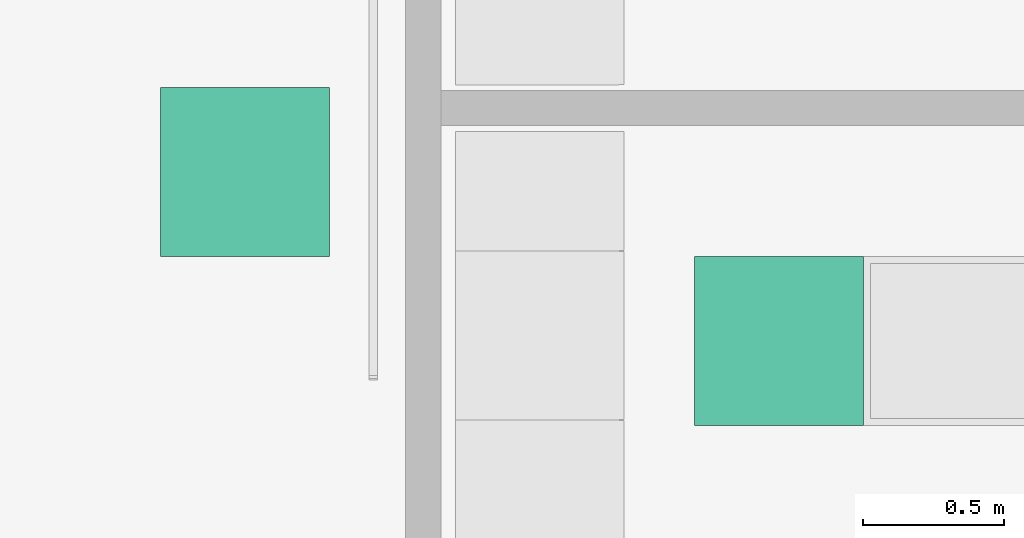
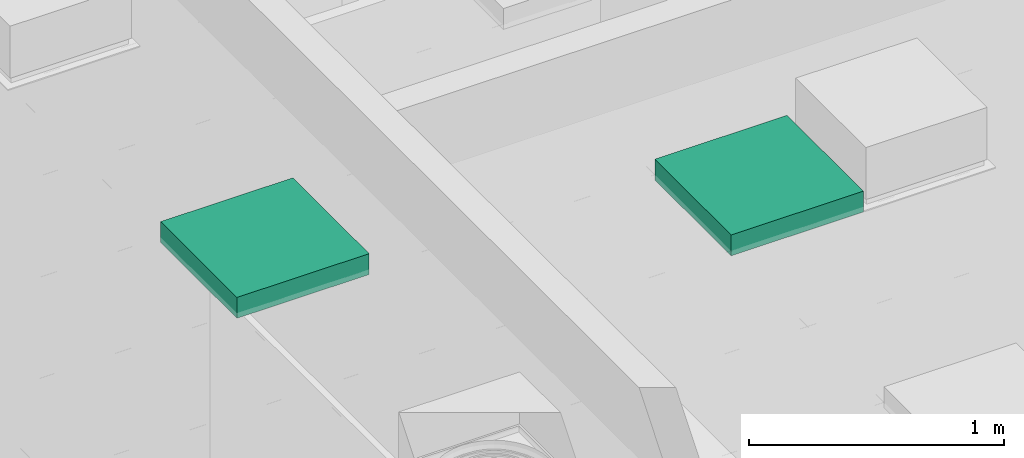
# One storey, part 189 of 347: 2 flow terminals.
"""IFC2X3 building model written with IfcOpenShell, lengths in millimetres."""

from ifc_helpers import new_model, entity, si_unit, converted_unit, derived_unit, money_unit, direction, frame, origin_with_axes, place, context, subcontext, project, spatial, open_shell, faceted_brep, surface_model, source, transform, mapped, type_object, type_shapes, element, save


model = new_model("IFC2X3")

# Units and contexts
model_context = context("Model", 3, precision=0.01, world=origin_with_axes(), true_north=direction((0.0, 1.0)))
plan_context = context("Plan", 3, precision=0.01, world=origin_with_axes(), true_north=direction((0.0, 1.0)))
body_context = subcontext(model_context, "Body", "Model", "MODEL_VIEW")
ifc_project = project(units=[si_unit("LENGTHUNIT", "METRE", prefix="MILLI"), si_unit("AREAUNIT", "SQUARE_METRE"), si_unit("VOLUMEUNIT", "CUBIC_METRE"), converted_unit("PLANEANGLEUNIT", "DEGREE", entity("IfcPlaneAngleMeasure", 0.0174532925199), si_unit("PLANEANGLEUNIT", "RADIAN"), dimensions=[0, 0, 0, 0, 0, 0, 0]), money_unit("EUR"), converted_unit("TIMEUNIT", "Year", entity("IfcTimeMeasure", 31556926.0), si_unit("TIMEUNIT", "SECOND"), dimensions=[0, 0, 1, 0, 0, 0, 0]), si_unit("MASSUNIT", "GRAM", prefix="KILO"), si_unit("THERMODYNAMICTEMPERATUREUNIT", "DEGREE_CELSIUS"), si_unit("LUMINOUSINTENSITYUNIT", "LUMEN"), si_unit("ENERGYUNIT", "JOULE", prefix="MEGA"), derived_unit("THERMALCONDUCTANCEUNIT", [(si_unit("POWERUNIT", "WATT"), 1), (si_unit("LENGTHUNIT", "METRE"), -1), (si_unit("THERMODYNAMICTEMPERATUREUNIT", "KELVIN"), -1)]), derived_unit("SPECIFICHEATCAPACITYUNIT", [(si_unit("ENERGYUNIT", "JOULE"), 1), (si_unit("MASSUNIT", "GRAM", prefix="KILO"), -1), (si_unit("THERMODYNAMICTEMPERATUREUNIT", "KELVIN"), -1)]), derived_unit("MASSDENSITYUNIT", [(si_unit("MASSUNIT", "GRAM", prefix="KILO"), 1), (si_unit("VOLUMEUNIT", "CUBIC_METRE"), -1)])], contexts=[model_context, plan_context])

# Site, building, storey
site_placement = place(None, origin_with_axes())
site = spatial("IfcSite", under=ifc_project, at=site_placement, Name="Site", CompositionType="ELEMENT")
building_placement = place(site_placement, origin_with_axes())
building = spatial("IfcBuilding", under=site, at=building_placement, Name="Naam gebouw", CompositionType="ELEMENT")
storey_placement = place(building_placement, origin_with_axes())
storey = spatial("IfcBuildingStorey", under=building, at=storey_placement, Name="begane grond", CompositionType="ELEMENT", Elevation=0.0)

# Flow terminals
lamp_type = type_object("IfcLampType", Name="TL plafond 25", PredefinedType="NOTDEFINED")
shared_shape = source(origin_with_axes(), body_context, "Body", "SurfaceModel", [
    faceted_brep([(0.0, 0.0, -100.0), (600.0, 0.0, -100.0), (600.0, 0.0, 0.0), (0.0, 0.0, 0.0), (0.0, 600.0, -100.0), (600.0, 600.0, -100.0), (40.0, 40.0, -100.0), (560.0, 40.0, -100.0), (560.0, 560.0, -100.0), (40.0, 560.0, -100.0), (600.0, 600.0, 0.0), (0.0, 600.0, 0.0), (40.0, 40.0, 0.0), (40.0, 560.0, 0.0), (560.0, 560.0, 0.0), (560.0, 40.0, 0.0)], [[[0, 1, 2, 3]], [[0, 4, 5, 1], [6, 7, 8, 9]], [[1, 5, 10, 2]], [[3, 2, 10, 11], [12, 13, 14, 15]], [[4, 0, 3, 11]], [[5, 4, 11, 10]], [[7, 6, 12, 15]], [[8, 7, 15, 14]], [[9, 8, 14, 13]], [[6, 9, 13, 12]]]),
    faceted_brep([(40.0, 40.0, -16.3333333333), (560.0, 40.0, -16.3333333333), (560.0, 40.0, 0.0), (40.0, 40.0, 0.0), (40.0, 560.0, -16.3333333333), (560.0, 560.0, -16.3333333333), (560.0, 560.0, 0.0), (40.0, 560.0, 0.0)], [[[0, 1, 2, 3]], [[0, 4, 5, 1]], [[1, 5, 6, 2]], [[3, 2, 6, 7]], [[4, 0, 3, 7]], [[5, 4, 7, 6]]]),
    surface_model("IfcShellBasedSurfaceModel", [(559.0, 41.0, -100.0), (40.0, 41.0, -100.0), (40.0, 559.0, -100.0), (559.0, 559.0, -100.0)], [open_shell([[[0, 1, 2, 3]]])]),
    faceted_brep([(40.0, 40.0, -100.0), (560.0, 40.0, -100.0), (560.0, 40.0, -60.0), (40.0, 40.0, -60.0), (40.0, 560.0, -100.0), (560.0, 560.0, -100.0), (41.0, 41.0, -100.0), (559.0, 41.0, -100.0), (559.0, 559.0, -100.0), (41.0, 559.0, -100.0), (560.0, 560.0, -60.0), (40.0, 560.0, -60.0), (41.0, 41.0, -60.0), (41.0, 559.0, -60.0), (559.0, 559.0, -60.0), (559.0, 41.0, -60.0)], [[[0, 1, 2, 3]], [[0, 4, 5, 1], [6, 7, 8, 9]], [[1, 5, 10, 2]], [[3, 2, 10, 11], [12, 13, 14, 15]], [[4, 0, 3, 11]], [[5, 4, 11, 10]], [[7, 6, 12, 15]], [[8, 7, 15, 14]], [[9, 8, 14, 13]], [[6, 9, 13, 12]]]),
    faceted_brep([(40.0, 144.0, -48.3333333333), (40.0, 149.740251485, -47.191526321), (560.0, 149.740251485, -47.191526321), (560.0, 144.0, -48.3333333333), (40.0, 138.259748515, -47.191526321), (40.0, 133.393398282, -43.9399350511), (40.0, 130.141807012, -39.0735848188), (40.0, 129.0, -33.3333333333), (40.0, 130.141807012, -27.5930818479), (40.0, 133.393398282, -22.7267316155), (40.0, 138.259748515, -19.4751403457), (40.0, 144.0, -18.3333333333), (40.0, 149.740251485, -19.4751403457), (40.0, 154.606601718, -22.7267316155), (40.0, 157.858192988, -27.5930818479), (40.0, 159.0, -33.3333333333), (40.0, 157.858192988, -39.0735848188), (40.0, 154.606601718, -43.9399350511), (40.0, 144.0, -46.3333333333), (40.0, 148.974884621, -45.343767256), (40.0, 153.192388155, -42.5257214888), (40.0, 156.010433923, -38.3082179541), (40.0, 157.0, -33.3333333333), (40.0, 156.010433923, -28.3584487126), (40.0, 153.192388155, -24.1409451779), (40.0, 148.974884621, -21.3228994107), (40.0, 144.0, -20.3333333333), (40.0, 139.025115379, -21.3228994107), (40.0, 134.807611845, -24.1409451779), (40.0, 131.989566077, -28.3584487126), (40.0, 131.0, -33.3333333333), (40.0, 131.989566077, -38.3082179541), (40.0, 134.807611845, -42.5257214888), (40.0, 139.025115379, -45.343767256), (560.0, 154.606601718, -43.9399350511), (560.0, 157.858192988, -39.0735848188), (560.0, 159.0, -33.3333333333), (560.0, 157.858192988, -27.5930818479), (560.0, 154.606601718, -22.7267316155), (560.0, 149.740251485, -19.4751403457), (560.0, 144.0, -18.3333333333), (560.0, 138.259748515, -19.4751403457), (560.0, 133.393398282, -22.7267316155), (560.0, 130.141807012, -27.5930818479), (560.0, 129.0, -33.3333333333), (560.0, 130.141807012, -39.0735848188), (560.0, 133.393398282, -43.9399350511), (560.0, 138.259748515, -47.191526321), (560.0, 144.0, -46.3333333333), (560.0, 139.025115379, -45.343767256), (560.0, 134.807611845, -42.5257214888), (560.0, 131.989566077, -38.3082179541), (560.0, 131.0, -33.3333333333), (560.0, 131.989566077, -28.3584487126), (560.0, 134.807611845, -24.1409451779), (560.0, 139.025115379, -21.3228994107), (560.0, 144.0, -20.3333333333), (560.0, 148.974884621, -21.3228994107), (560.0, 153.192388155, -24.1409451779), (560.0, 156.010433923, -28.3584487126), (560.0, 157.0, -33.3333333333), (560.0, 156.010433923, -38.3082179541), (560.0, 153.192388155, -42.5257214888), (560.0, 148.974884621, -45.343767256)], [[[0, 1, 2, 3]], [[0, 4, 5, 6, 7, 8, 9, 10, 11, 12, 13, 14, 15, 16, 17, 1], [18, 19, 20, 21, 22, 23, 24, 25, 26, 27, 28, 29, 30, 31, 32, 33]], [[1, 17, 34, 2]], [[3, 2, 34, 35, 36, 37, 38, 39, 40, 41, 42, 43, 44, 45, 46, 47], [48, 49, 50, 51, 52, 53, 54, 55, 56, 57, 58, 59, 60, 61, 62, 63]], [[4, 0, 3, 47]], [[5, 4, 47, 46]], [[6, 5, 46, 45]], [[7, 6, 45, 44]], [[8, 7, 44, 43]], [[9, 8, 43, 42]], [[10, 9, 42, 41]], [[11, 10, 41, 40]], [[12, 11, 40, 39]], [[13, 12, 39, 38]], [[14, 13, 38, 37]], [[15, 14, 37, 36]], [[16, 15, 36, 35]], [[17, 16, 35, 34]], [[19, 18, 48, 63]], [[20, 19, 63, 62]], [[21, 20, 62, 61]], [[22, 21, 61, 60]], [[23, 22, 60, 59]], [[24, 23, 59, 58]], [[25, 24, 58, 57]], [[26, 25, 57, 56]], [[27, 26, 56, 55]], [[28, 27, 55, 54]], [[29, 28, 54, 53]], [[30, 29, 53, 52]], [[31, 30, 52, 51]], [[32, 31, 51, 50]], [[33, 32, 50, 49]], [[18, 33, 49, 48]]]),
    faceted_brep([(40.0, 248.0, -48.3333333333), (40.0, 253.740251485, -47.191526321), (560.0, 253.740251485, -47.191526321), (560.0, 248.0, -48.3333333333), (40.0, 242.259748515, -47.191526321), (40.0, 237.393398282, -43.9399350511), (40.0, 234.141807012, -39.0735848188), (40.0, 233.0, -33.3333333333), (40.0, 234.141807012, -27.5930818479), (40.0, 237.393398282, -22.7267316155), (40.0, 242.259748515, -19.4751403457), (40.0, 248.0, -18.3333333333), (40.0, 253.740251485, -19.4751403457), (40.0, 258.606601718, -22.7267316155), (40.0, 261.858192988, -27.5930818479), (40.0, 263.0, -33.3333333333), (40.0, 261.858192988, -39.0735848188), (40.0, 258.606601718, -43.9399350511), (40.0, 248.0, -46.3333333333), (40.0, 252.974884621, -45.343767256), (40.0, 257.192388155, -42.5257214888), (40.0, 260.010433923, -38.3082179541), (40.0, 261.0, -33.3333333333), (40.0, 260.010433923, -28.3584487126), (40.0, 257.192388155, -24.1409451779), (40.0, 252.974884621, -21.3228994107), (40.0, 248.0, -20.3333333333), (40.0, 243.025115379, -21.3228994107), (40.0, 238.807611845, -24.1409451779), (40.0, 235.989566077, -28.3584487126), (40.0, 235.0, -33.3333333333), (40.0, 235.989566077, -38.3082179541), (40.0, 238.807611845, -42.5257214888), (40.0, 243.025115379, -45.343767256), (560.0, 258.606601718, -43.9399350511), (560.0, 261.858192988, -39.0735848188), (560.0, 263.0, -33.3333333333), (560.0, 261.858192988, -27.5930818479), (560.0, 258.606601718, -22.7267316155), (560.0, 253.740251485, -19.4751403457), (560.0, 248.0, -18.3333333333), (560.0, 242.259748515, -19.4751403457), (560.0, 237.393398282, -22.7267316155), (560.0, 234.141807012, -27.5930818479), (560.0, 233.0, -33.3333333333), (560.0, 234.141807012, -39.0735848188), (560.0, 237.393398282, -43.9399350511), (560.0, 242.259748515, -47.191526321), (560.0, 248.0, -46.3333333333), (560.0, 243.025115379, -45.343767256), (560.0, 238.807611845, -42.5257214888), (560.0, 235.989566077, -38.3082179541), (560.0, 235.0, -33.3333333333), (560.0, 235.989566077, -28.3584487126), (560.0, 238.807611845, -24.1409451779), (560.0, 243.025115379, -21.3228994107), (560.0, 248.0, -20.3333333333), (560.0, 252.974884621, -21.3228994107), (560.0, 257.192388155, -24.1409451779), (560.0, 260.010433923, -28.3584487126), (560.0, 261.0, -33.3333333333), (560.0, 260.010433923, -38.3082179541), (560.0, 257.192388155, -42.5257214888), (560.0, 252.974884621, -45.343767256)], [[[0, 1, 2, 3]], [[0, 4, 5, 6, 7, 8, 9, 10, 11, 12, 13, 14, 15, 16, 17, 1], [18, 19, 20, 21, 22, 23, 24, 25, 26, 27, 28, 29, 30, 31, 32, 33]], [[1, 17, 34, 2]], [[3, 2, 34, 35, 36, 37, 38, 39, 40, 41, 42, 43, 44, 45, 46, 47], [48, 49, 50, 51, 52, 53, 54, 55, 56, 57, 58, 59, 60, 61, 62, 63]], [[4, 0, 3, 47]], [[5, 4, 47, 46]], [[6, 5, 46, 45]], [[7, 6, 45, 44]], [[8, 7, 44, 43]], [[9, 8, 43, 42]], [[10, 9, 42, 41]], [[11, 10, 41, 40]], [[12, 11, 40, 39]], [[13, 12, 39, 38]], [[14, 13, 38, 37]], [[15, 14, 37, 36]], [[16, 15, 36, 35]], [[17, 16, 35, 34]], [[19, 18, 48, 63]], [[20, 19, 63, 62]], [[21, 20, 62, 61]], [[22, 21, 61, 60]], [[23, 22, 60, 59]], [[24, 23, 59, 58]], [[25, 24, 58, 57]], [[26, 25, 57, 56]], [[27, 26, 56, 55]], [[28, 27, 55, 54]], [[29, 28, 54, 53]], [[30, 29, 53, 52]], [[31, 30, 52, 51]], [[32, 31, 51, 50]], [[33, 32, 50, 49]], [[18, 33, 49, 48]]]),
    faceted_brep([(40.0, 352.0, -48.3333333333), (40.0, 357.740251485, -47.191526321), (560.0, 357.740251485, -47.191526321), (560.0, 352.0, -48.3333333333), (40.0, 346.259748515, -47.191526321), (40.0, 341.393398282, -43.9399350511), (40.0, 338.141807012, -39.0735848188), (40.0, 337.0, -33.3333333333), (40.0, 338.141807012, -27.5930818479), (40.0, 341.393398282, -22.7267316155), (40.0, 346.259748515, -19.4751403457), (40.0, 352.0, -18.3333333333), (40.0, 357.740251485, -19.4751403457), (40.0, 362.606601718, -22.7267316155), (40.0, 365.858192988, -27.5930818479), (40.0, 367.0, -33.3333333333), (40.0, 365.858192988, -39.0735848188), (40.0, 362.606601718, -43.9399350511), (40.0, 352.0, -46.3333333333), (40.0, 356.974884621, -45.343767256), (40.0, 361.192388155, -42.5257214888), (40.0, 364.010433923, -38.3082179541), (40.0, 365.0, -33.3333333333), (40.0, 364.010433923, -28.3584487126), (40.0, 361.192388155, -24.1409451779), (40.0, 356.974884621, -21.3228994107), (40.0, 352.0, -20.3333333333), (40.0, 347.025115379, -21.3228994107), (40.0, 342.807611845, -24.1409451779), (40.0, 339.989566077, -28.3584487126), (40.0, 339.0, -33.3333333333), (40.0, 339.989566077, -38.3082179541), (40.0, 342.807611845, -42.5257214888), (40.0, 347.025115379, -45.343767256), (560.0, 362.606601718, -43.9399350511), (560.0, 365.858192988, -39.0735848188), (560.0, 367.0, -33.3333333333), (560.0, 365.858192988, -27.5930818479), (560.0, 362.606601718, -22.7267316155), (560.0, 357.740251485, -19.4751403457), (560.0, 352.0, -18.3333333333), (560.0, 346.259748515, -19.4751403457), (560.0, 341.393398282, -22.7267316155), (560.0, 338.141807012, -27.5930818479), (560.0, 337.0, -33.3333333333), (560.0, 338.141807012, -39.0735848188), (560.0, 341.393398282, -43.9399350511), (560.0, 346.259748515, -47.191526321), (560.0, 352.0, -46.3333333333), (560.0, 347.025115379, -45.343767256), (560.0, 342.807611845, -42.5257214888), (560.0, 339.989566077, -38.3082179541), (560.0, 339.0, -33.3333333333), (560.0, 339.989566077, -28.3584487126), (560.0, 342.807611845, -24.1409451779), (560.0, 347.025115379, -21.3228994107), (560.0, 352.0, -20.3333333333), (560.0, 356.974884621, -21.3228994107), (560.0, 361.192388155, -24.1409451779), (560.0, 364.010433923, -28.3584487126), (560.0, 365.0, -33.3333333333), (560.0, 364.010433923, -38.3082179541), (560.0, 361.192388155, -42.5257214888), (560.0, 356.974884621, -45.343767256)], [[[0, 1, 2, 3]], [[0, 4, 5, 6, 7, 8, 9, 10, 11, 12, 13, 14, 15, 16, 17, 1], [18, 19, 20, 21, 22, 23, 24, 25, 26, 27, 28, 29, 30, 31, 32, 33]], [[1, 17, 34, 2]], [[3, 2, 34, 35, 36, 37, 38, 39, 40, 41, 42, 43, 44, 45, 46, 47], [48, 49, 50, 51, 52, 53, 54, 55, 56, 57, 58, 59, 60, 61, 62, 63]], [[4, 0, 3, 47]], [[5, 4, 47, 46]], [[6, 5, 46, 45]], [[7, 6, 45, 44]], [[8, 7, 44, 43]], [[9, 8, 43, 42]], [[10, 9, 42, 41]], [[11, 10, 41, 40]], [[12, 11, 40, 39]], [[13, 12, 39, 38]], [[14, 13, 38, 37]], [[15, 14, 37, 36]], [[16, 15, 36, 35]], [[17, 16, 35, 34]], [[19, 18, 48, 63]], [[20, 19, 63, 62]], [[21, 20, 62, 61]], [[22, 21, 61, 60]], [[23, 22, 60, 59]], [[24, 23, 59, 58]], [[25, 24, 58, 57]], [[26, 25, 57, 56]], [[27, 26, 56, 55]], [[28, 27, 55, 54]], [[29, 28, 54, 53]], [[30, 29, 53, 52]], [[31, 30, 52, 51]], [[32, 31, 51, 50]], [[33, 32, 50, 49]], [[18, 33, 49, 48]]]),
    faceted_brep([(40.0, 456.0, -48.3333333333), (40.0, 461.740251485, -47.191526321), (560.0, 461.740251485, -47.191526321), (560.0, 456.0, -48.3333333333), (40.0, 450.259748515, -47.191526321), (40.0, 445.393398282, -43.9399350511), (40.0, 442.141807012, -39.0735848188), (40.0, 441.0, -33.3333333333), (40.0, 442.141807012, -27.5930818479), (40.0, 445.393398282, -22.7267316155), (40.0, 450.259748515, -19.4751403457), (40.0, 456.0, -18.3333333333), (40.0, 461.740251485, -19.4751403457), (40.0, 466.606601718, -22.7267316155), (40.0, 469.858192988, -27.5930818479), (40.0, 471.0, -33.3333333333), (40.0, 469.858192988, -39.0735848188), (40.0, 466.606601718, -43.9399350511), (40.0, 456.0, -46.3333333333), (40.0, 460.974884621, -45.343767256), (40.0, 465.192388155, -42.5257214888), (40.0, 468.010433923, -38.3082179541), (40.0, 469.0, -33.3333333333), (40.0, 468.010433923, -28.3584487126), (40.0, 465.192388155, -24.1409451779), (40.0, 460.974884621, -21.3228994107), (40.0, 456.0, -20.3333333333), (40.0, 451.025115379, -21.3228994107), (40.0, 446.807611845, -24.1409451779), (40.0, 443.989566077, -28.3584487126), (40.0, 443.0, -33.3333333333), (40.0, 443.989566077, -38.3082179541), (40.0, 446.807611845, -42.5257214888), (40.0, 451.025115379, -45.343767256), (560.0, 466.606601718, -43.9399350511), (560.0, 469.858192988, -39.0735848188), (560.0, 471.0, -33.3333333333), (560.0, 469.858192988, -27.5930818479), (560.0, 466.606601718, -22.7267316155), (560.0, 461.740251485, -19.4751403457), (560.0, 456.0, -18.3333333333), (560.0, 450.259748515, -19.4751403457), (560.0, 445.393398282, -22.7267316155), (560.0, 442.141807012, -27.5930818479), (560.0, 441.0, -33.3333333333), (560.0, 442.141807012, -39.0735848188), (560.0, 445.393398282, -43.9399350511), (560.0, 450.259748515, -47.191526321), (560.0, 456.0, -46.3333333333), (560.0, 451.025115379, -45.343767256), (560.0, 446.807611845, -42.5257214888), (560.0, 443.989566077, -38.3082179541), (560.0, 443.0, -33.3333333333), (560.0, 443.989566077, -28.3584487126), (560.0, 446.807611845, -24.1409451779), (560.0, 451.025115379, -21.3228994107), (560.0, 456.0, -20.3333333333), (560.0, 460.974884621, -21.3228994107), (560.0, 465.192388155, -24.1409451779), (560.0, 468.010433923, -28.3584487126), (560.0, 469.0, -33.3333333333), (560.0, 468.010433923, -38.3082179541), (560.0, 465.192388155, -42.5257214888), (560.0, 460.974884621, -45.343767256)], [[[0, 1, 2, 3]], [[0, 4, 5, 6, 7, 8, 9, 10, 11, 12, 13, 14, 15, 16, 17, 1], [18, 19, 20, 21, 22, 23, 24, 25, 26, 27, 28, 29, 30, 31, 32, 33]], [[1, 17, 34, 2]], [[3, 2, 34, 35, 36, 37, 38, 39, 40, 41, 42, 43, 44, 45, 46, 47], [48, 49, 50, 51, 52, 53, 54, 55, 56, 57, 58, 59, 60, 61, 62, 63]], [[4, 0, 3, 47]], [[5, 4, 47, 46]], [[6, 5, 46, 45]], [[7, 6, 45, 44]], [[8, 7, 44, 43]], [[9, 8, 43, 42]], [[10, 9, 42, 41]], [[11, 10, 41, 40]], [[12, 11, 40, 39]], [[13, 12, 39, 38]], [[14, 13, 38, 37]], [[15, 14, 37, 36]], [[16, 15, 36, 35]], [[17, 16, 35, 34]], [[19, 18, 48, 63]], [[20, 19, 63, 62]], [[21, 20, 62, 61]], [[22, 21, 61, 60]], [[23, 22, 60, 59]], [[24, 23, 59, 58]], [[25, 24, 58, 57]], [[26, 25, 57, 56]], [[27, 26, 56, 55]], [[28, 27, 55, 54]], [[29, 28, 54, 53]], [[30, 29, 53, 52]], [[31, 30, 52, 51]], [[32, 31, 51, 50]], [[33, 32, 50, 49]], [[18, 33, 49, 48]]]),
])
type_shapes(lamp_type, [shared_shape])
for number, where, z_axis, x_axis, name in (
    (1, (15550.0, 7399.99997201, 3295.0), (0.0, 0.0, 1.0), (1.0, 0.0, 0.0), "63_Lamp-x"),
    (2, (13655.0, 7999.99997201, 3295.0), (0.0, 0.0, 1.0), (1.0, 0.0, 0.0), "63_Lamp-x"),
):
    element("IfcFlowTerminal", number, at=place(storey_placement, frame(where, z_axis=z_axis, x_axis=x_axis)), inside=storey, type_object=lamp_type, Name=name, ObjectType="Lamp", context=body_context, shape_type="MappedRepresentation", body=[
        mapped(shared_shape, transform((0.0, 0.0, 0.0))),
    ])

save(model, "model.ifc")
